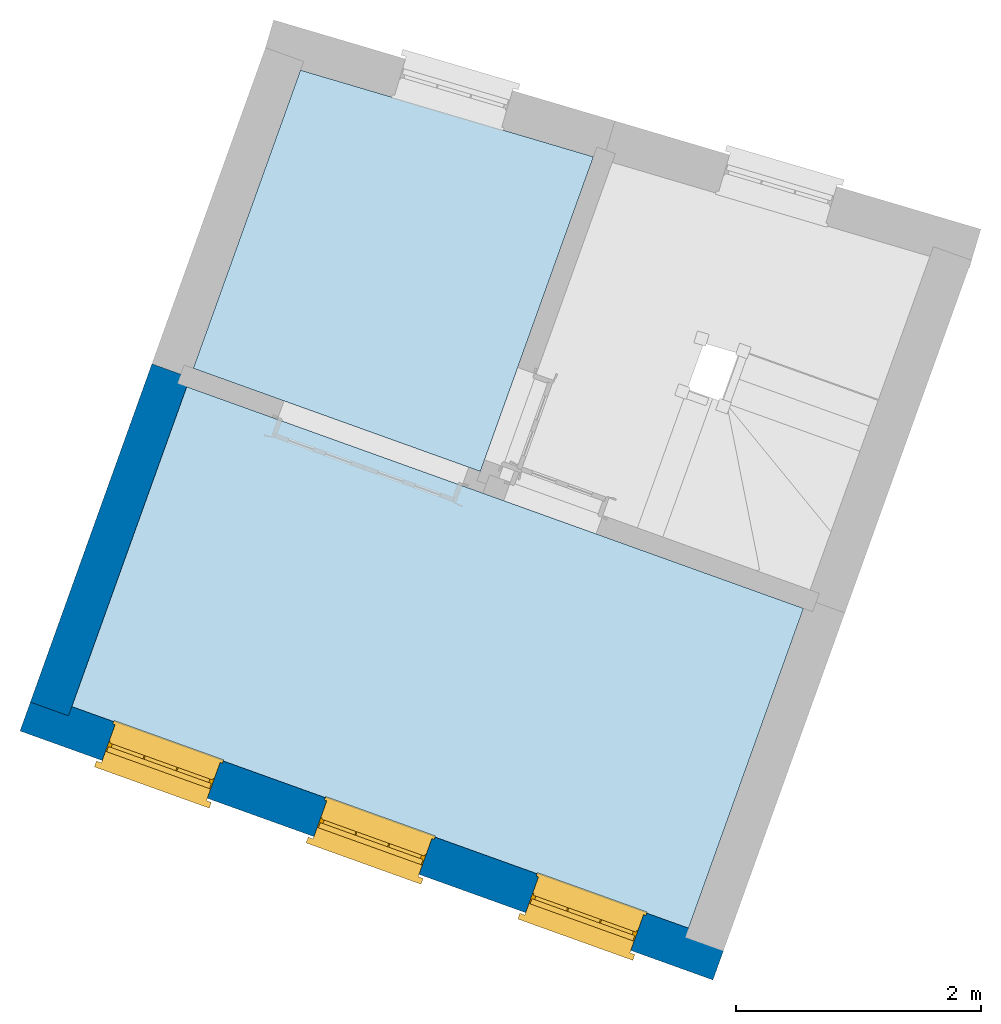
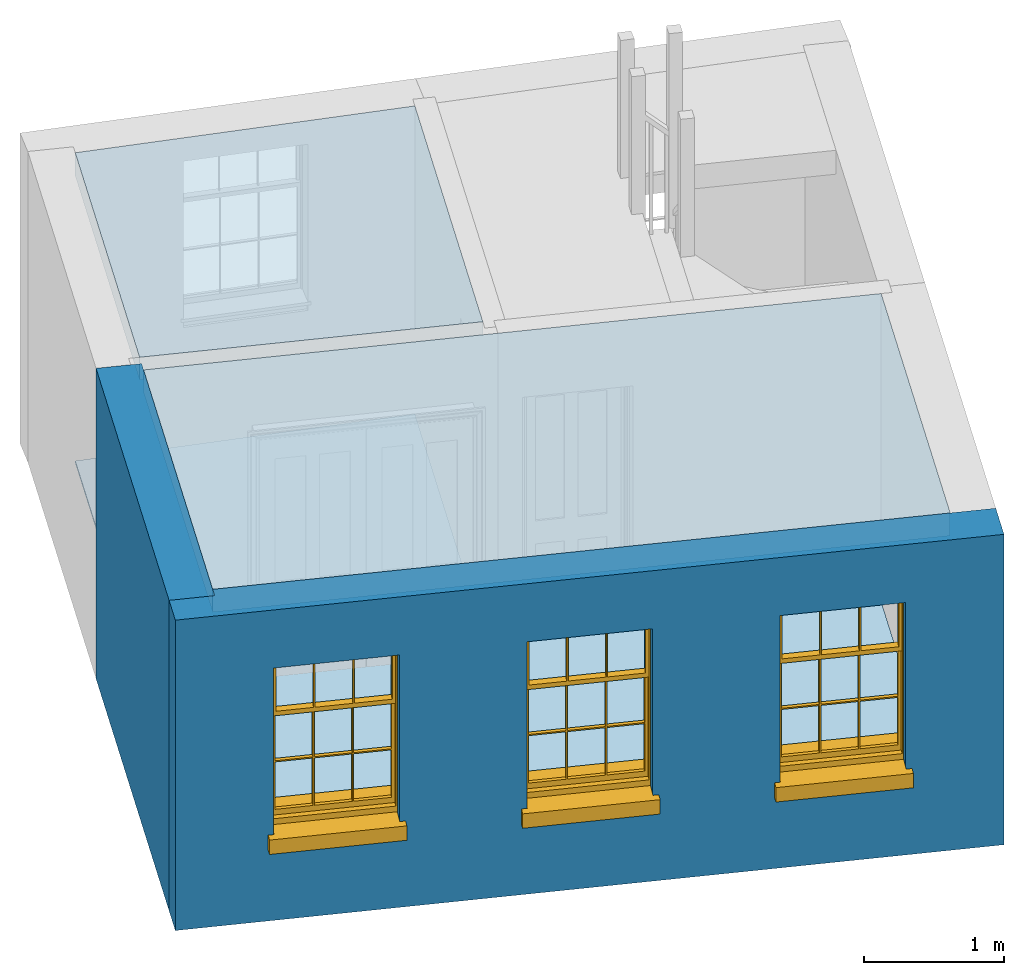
# One storey, part 1 of 4: 4 slabs, 3 windows, 2 walls, 3 openings.
"""IFC4 building model written with IfcOpenShell, lengths in metres."""

from ifc_helpers import new_model, si_unit, frame, origin, origin_with_axes, place, context, subcontext, project, spatial, polyline, outline, extrude, faceted_brep, source, transform, mapped, material, layer, layer_set, layer_usage, type_object, type_shapes, element, fill, save


model = new_model("IFC4")

# Units and contexts
model_context = context("Model", 3, world=origin_with_axes())
body_context = subcontext(model_context, "Body", "Model", "MODEL_VIEW")
ifc_project = project(units=[si_unit("PLANEANGLEUNIT", "RADIAN"), si_unit("MASSUNIT", "GRAM", prefix="KILO"), si_unit("FORCEUNIT", "NEWTON", prefix="KILO"), si_unit("LENGTHUNIT", "METRE"), si_unit("AREAUNIT", "SQUARE_METRE"), si_unit("VOLUMEUNIT", "CUBIC_METRE")], contexts=[model_context, model_context])

# Sites, building, storey
site_1_placement = place(None, origin_with_axes())
site_1 = spatial("IfcSite", under=ifc_project, at=site_1_placement, Name="Tamar")
site_2_placement = place(site_1_placement, origin_with_axes())
site_2 = spatial("IfcSite", under=site_1, at=site_2_placement, Name="Site plot-24", CompositionType="ELEMENT")
building_placement = place(None, origin_with_axes())
building = spatial("IfcBuilding", under=site_2, at=building_placement, Name="Building plot-24", CompositionType="ELEMENT")
storey_placement = place(None, frame((0.0, 0.0, 29.3), z_axis=(0.0, 0.0, 1.0), x_axis=(1.0, 0.0, 0.0)))
storey = spatial("IfcBuildingStorey", under=building, at=storey_placement, Name="plot-24 1", CompositionType="ELEMENT", Elevation=29.3)

# Slabs
slab_1_placement = place(storey_placement, frame((269.11697327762, 275.26769644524, 2.5)))
element("IfcSlab", 1, at=slab_1_placement, inside=storey, Name="My Slab", ObjectType="Slab", PredefinedType="FLOOR", context=body_context, shape_type="SweptSolid", body=[
    extrude(outline(polyline([(0.0, 0.0), (5.02540546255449, -1.80579620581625), (5.96180584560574, 0.800141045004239), (0.93640038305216, 2.60593725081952), (0.0, 0.0)])), origin_with_axes(), (0.0, 0.0, 1.0), 0.2),
])
slab_2_placement = place(storey_placement, frame((269.11697327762, 275.26769644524, 0.0)))
element("IfcSlab", 2, at=slab_2_placement, inside=storey, Name="My Slab", ObjectType="Slab", PredefinedType="FLOOR", context=body_context, shape_type="SweptSolid", body=[
    extrude(outline(polyline([(0.0, 0.0), (5.02540546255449, -1.80579620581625), (5.96180584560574, 0.800141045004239), (0.93640038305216, 2.60593725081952), (0.0, 0.0)])), origin_with_axes(), (0.0, 0.0, 1.0), 0.02),
])
slab_3_placement = place(storey_placement, frame((272.445938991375, 277.183921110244, 2.5)))
element("IfcSlab", 3, at=slab_3_placement, inside=storey, Name="My Slab", ObjectType="Slab", PredefinedType="FLOOR", context=body_context, shape_type="SweptSolid", body=[
    extrude(outline(polyline([(0.0, 0.0), (0.921155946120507, 2.56351304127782), (-1.46547668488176, 3.26973591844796), (-2.33845907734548, 0.840286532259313), (0.0, 0.0)])), origin_with_axes(), (0.0, 0.0, 1.0), 0.2),
])
slab_4_placement = place(storey_placement, frame((272.445938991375, 277.183921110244, 0.0)))
element("IfcSlab", 4, at=slab_4_placement, inside=storey, Name="My Slab", ObjectType="Slab", PredefinedType="FLOOR", context=body_context, shape_type="SweptSolid", body=[
    extrude(outline(polyline([(0.0, 0.0), (0.921155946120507, 2.56351304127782), (-1.46547668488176, 3.26973591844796), (-2.33845907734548, 0.840286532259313), (0.0, 0.0)])), origin_with_axes(), (0.0, 0.0, 1.0), 0.02),
])

# Wall, openings, windows
ifc_material_1 = material(Name="Masonry")
ifc_layer_1 = layer(ifc_material_1, 0.33, ventilated=False)
ifc_layer_set_1 = layer_set([ifc_layer_1], Name="exterior_0.08_0.25")
ifc_layer_usage_1 = layer_usage(ifc_layer_set_1, "AXIS2", "POSITIVE", -0.25)
wall_type_1 = type_object("IfcWallType", Name="exterior_0.08_0.25", PredefinedType="SOLIDWALL", material=ifc_layer_set_1)
wall_1_placement = place(storey_placement, frame((269.014633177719, 275.219462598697, 0.0), z_axis=(0.0, 0.0, 1.0), x_axis=(0.941087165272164, -0.338164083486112, 0.0)))
wall_1 = element("IfcWall", 5, at=wall_1_placement, inside=storey, type_object=wall_type_1, material=ifc_layer_usage_1, Name="exterior", context=body_context, shape_type="SweptSolid", body=[
    extrude(outline(polyline([(-0.250000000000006, 0.0799999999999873), (-0.250000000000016, -0.249999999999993), (5.75000000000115, -0.250000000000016), (5.75000000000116, 0.079999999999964), (-0.250000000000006, 0.0799999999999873)])), origin_with_axes(), (0.0, 0.0, 1.0), 2.7),
])
opening_1_placement = place(wall_1_placement, frame((0.461666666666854, 0.0, 0.75)))
opening_1 = element("IfcOpeningElement", 6, at=opening_1_placement, cuts=wall_1, Name="My Opening", ObjectType="Opening", context=body_context, shape_type="SweptSolid", body=[
    extrude(outline(polyline([(0.0, -0.270000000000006), (0.910000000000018, -0.27000000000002), (0.910000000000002, 1.1), (-1.5931700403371e-14, 1.10000000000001), (0.0, -0.270000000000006)])), origin_with_axes(), (0.0, 0.0, 1.0), 1.445),
])
opening_2_placement = place(wall_1_placement, frame((2.2950000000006, 0.0, 0.75)))
opening_2 = element("IfcOpeningElement", 7, at=opening_2_placement, cuts=wall_1, Name="My Opening", ObjectType="Opening", context=body_context, shape_type="SweptSolid", body=[
    extrude(outline(polyline([(0.0, -0.270000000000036), (0.909999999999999, -0.269999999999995), (0.909999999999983, 1.10000000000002), (-1.59872115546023e-14, 1.09999999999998), (0.0, -0.270000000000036)])), origin_with_axes(), (0.0, 0.0, 1.0), 1.445),
])
opening_3_placement = place(wall_1_placement, frame((4.12833333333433, 0.0, 0.75)))
opening_3 = element("IfcOpeningElement", 8, at=opening_3_placement, cuts=wall_1, Name="My Opening", ObjectType="Opening", context=body_context, shape_type="SweptSolid", body=[
    extrude(outline(polyline([(0.0, -0.270000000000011), (0.910000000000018, -0.270000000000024), (0.910000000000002, 1.1), (-1.59872115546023e-14, 1.10000000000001), (0.0, -0.270000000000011)])), origin_with_axes(), (0.0, 0.0, 1.0), 1.445),
])
window_type = type_object("IfcWindowType", Name="sash_shorter", PartitioningType="DOUBLE_PANEL_HORIZONTAL", PredefinedType="NOTDEFINED")
shared_shape = source(origin(), body_context, "Body", "Brep", [
    faceted_brep([(0.876875, 0.145, 0.999097), (0.876875, 0.145, 1.411875), (0.9, 0.145, 1.435), (0.033125, 0.145, 1.411875), (0.033125, 0.145, 0.999097), (0.01, 0.145, 1.435), (0.033125, 0.115, 1.411875), (0.01, 0.115, 1.435), (0.033125, 0.115, 0.999097), (0.876875, 0.115, 1.411875), (0.876875, 0.115, 0.999097), (0.9, 0.115, 1.435), (0.033125, 0.145, 0.960972), (0.01, 0.145, 0.960972), (0.033125, 0.145, 0.548195), (0.876875, 0.145, 0.960972), (0.876875, 0.145, 0.548195), (0.9, 0.145, 0.960972), (0.876875, 0.145, 0.538195), (0.876875, 0.145, 0.125417), (0.9, 0.145, 0.077167), (0.033125, 0.145, 0.125417), (0.033125, 0.145, 0.538195), (0.01, 0.145, 0.077167), (0.9, 0.115, 0.960972), (0.01, 0.115, 0.960972), (-0.0425, 0.0, 0.01), (-0.0425, -0.05, 0.001667), (0.0, 0.0, 0.01), (0.9525, 0.0, 0.01), (0.91, 0.0, 0.01), (0.9525, -0.05, 0.001667), (-0.02, 0.33, 0.077167), (0.0, 0.33, 0.077167), (-0.02, 0.36, 0.077167), (0.0, 0.19, 0.077167), (0.01, 0.19, 0.077167), (0.91, 0.19, 0.077167), (0.91, 0.33, 0.077167), (0.9, 0.19, 0.077167), (0.93, 0.33, 0.077167), (0.93, 0.36, 0.077167), (0.01, 0.145, 0.999097), (0.01, 0.175, 0.999097), (0.9, 0.145, 0.999097), (0.9, 0.175, 0.999097), (0.876875, 0.175, 0.125417), (0.876875, 0.175, 0.538195), (0.9, 0.175, 0.077167), (0.876875, 0.175, 0.548195), (0.876875, 0.175, 0.960972), (0.033125, 0.175, 0.125417), (0.01, 0.175, 0.077167), (0.033125, 0.175, 0.538195), (0.033125, 0.175, 0.960972), (0.033125, 0.175, 0.548195), (-0.02, 0.33, 0.052167), (-0.02, 0.36, 0.052167), (0.93, 0.36, 0.052167), (0.93, 0.33, 0.052167), (0.91, 0.33, 0.052167), (0.0, 0.33, 0.052167), (0.91, 0.1, 0.026667), (0.0, 0.1, 0.026667), (-0.0425, -0.05, -0.123333), (0.9525, -0.05, -0.123333), (-0.0425, 0.0, -0.123333), (0.9525, 0.0, -0.123333), (0.01, 0.19, 1.435), (0.9, 0.19, 1.435), (0.0, 0.19, 1.445), (0.91, 0.19, 1.445), (0.01, 0.1, 0.077167), (0.9, 0.1, 0.077167), (0.592292, 0.145, 0.125417), (0.592292, 0.175, 0.125417), (0.317708, 0.175, 0.125417), (0.317708, 0.145, 0.125417), (0.592292, 0.145, 0.548195), (0.317708, 0.145, 0.548195), (0.317708, 0.145, 0.538195), (0.592292, 0.145, 0.538195), (0.592292, 0.175, 0.548195), (0.317708, 0.175, 0.548195), (0.602292, 0.175, 0.548195), (0.602292, 0.145, 0.548195), (0.317708, 0.175, 0.538195), (0.307708, 0.175, 0.125417), (0.307708, 0.175, 0.538195), (0.602292, 0.175, 0.538195), (0.602292, 0.175, 0.125417), (0.592292, 0.175, 0.538195), (0.307708, 0.175, 0.548195), (0.317708, 0.175, 0.960972), (0.307708, 0.175, 0.960972), (0.602292, 0.175, 0.960972), (0.592292, 0.175, 0.960972), (0.307708, 0.145, 0.538195), (0.307708, 0.145, 0.125417), (0.307708, 0.145, 0.548195), (0.307708, 0.145, 0.960972), (0.592292, 0.145, 0.960972), (0.317708, 0.145, 0.960972), (0.602292, 0.145, 0.960972), (0.602292, 0.145, 0.538195), (0.602292, 0.145, 0.125417), (0.317708, 0.115, 1.411875), (0.307708, 0.115, 1.411875), (0.307708, 0.115, 0.999097), (0.317708, 0.115, 0.999097), (0.602292, 0.115, 1.411875), (0.592292, 0.115, 1.411875), (0.592292, 0.115, 0.999097), (0.602292, 0.115, 0.999097), (0.317708, 0.145, 0.999097), (0.307708, 0.145, 0.999097), (0.307708, 0.145, 1.411875), (0.317708, 0.145, 1.411875), (0.602292, 0.145, 0.999097), (0.592292, 0.145, 0.999097), (0.592292, 0.145, 1.411875), (0.602292, 0.145, 1.411875), (0.91, 0.1, 1.445), (0.9, 0.1, 1.435), (0.01, 0.1, 1.435), (0.0, 0.1, 1.445), (0.91, 0.0, 0.0), (0.0, 0.0, 0.0), (0.91, 0.33, 0.0), (0.0, 0.33, 0.0)], [[[0, 1, 2]], [[3, 4, 5]], [[6, 7, 8]], [[9, 10, 11]], [[12, 13, 14]], [[15, 16, 17]], [[18, 19, 20]], [[21, 22, 23]], [[24, 15, 17]], [[13, 12, 25]], [[26, 27, 28]], [[29, 30, 31]], [[32, 33, 34]], [[35, 36, 33]], [[37, 38, 39]], [[40, 41, 38]], [[42, 4, 43]], [[44, 45, 0]], [[46, 47, 48]], [[49, 50, 45]], [[51, 52, 53]], [[54, 55, 43]], [[38, 33, 36, 39]], [[41, 34, 33, 38]], [[56, 32, 34, 57]], [[57, 34, 41, 58]], [[58, 41, 40, 59]], [[57, 58, 60, 61]], [[52, 48, 39, 36]], [[62, 63, 28, 30]], [[27, 31, 30, 28]], [[27, 64, 65, 31]], [[66, 67, 65, 64]], [[2, 5, 68, 69]], [[68, 70, 71, 69]], [[20, 23, 72, 73]], [[73, 72, 63, 62]], [[74, 75, 76, 77]], [[78, 79, 80, 81]], [[78, 82, 83, 79]], [[16, 49, 84, 85]], [[86, 76, 87, 88]], [[89, 90, 75, 91]], [[92, 88, 53, 55]], [[82, 91, 86, 83]], [[93, 83, 92, 94]], [[95, 84, 82, 96]], [[89, 84, 49, 47]], [[97, 88, 87, 98]], [[22, 53, 88, 97]], [[81, 91, 75, 74]], [[80, 86, 91, 81]], [[77, 76, 86, 80]], [[99, 92, 55, 14]], [[100, 94, 92, 99]], [[101, 96, 82, 78]], [[79, 83, 93, 102]], [[85, 84, 95, 103]], [[104, 89, 47, 18]], [[105, 90, 89, 104]], [[104, 18, 16, 85]], [[80, 97, 98, 77]], [[104, 81, 74, 105]], [[103, 101, 78, 85]], [[99, 14, 22, 97]], [[102, 100, 99, 79]], [[106, 107, 108, 109]], [[110, 111, 112, 113]], [[114, 115, 116, 117]], [[118, 119, 120, 121]], [[107, 116, 115, 108]], [[111, 120, 119, 112]], [[109, 114, 117, 106]], [[113, 118, 121, 110]], [[85, 78, 81, 104]], [[84, 89, 91, 82]], [[83, 86, 88, 92]], [[79, 99, 97, 80]], [[109, 112, 119, 114]], [[102, 93, 96, 101]], [[106, 117, 120, 111]], [[98, 87, 51, 21]], [[6, 3, 116, 107]], [[110, 121, 1, 9]], [[19, 46, 90, 105]], [[26, 66, 64, 27]], [[29, 31, 65, 67]], [[25, 24, 112, 109]], [[11, 7, 106, 111]], [[75, 48, 52, 76]], [[43, 45, 96, 93]], [[45, 43, 114, 119]], [[5, 2, 120, 117]], [[24, 25, 102, 101]], [[42, 5, 4]], [[2, 44, 0]], [[49, 45, 48, 47]], [[52, 43, 55, 53]], [[14, 13, 23, 22]], [[20, 17, 16, 18]], [[24, 11, 10]], [[25, 8, 7]], [[8, 4, 3, 6]], [[9, 1, 0, 10]], [[15, 50, 49, 16]], [[18, 47, 46, 19]], [[21, 51, 53, 22]], [[14, 55, 54, 12]], [[44, 2, 69, 45]], [[68, 5, 42, 43]], [[36, 35, 70, 68]], [[39, 69, 71, 37]], [[62, 122, 123, 73]], [[63, 72, 124, 125]], [[8, 108, 115, 4]], [[113, 10, 0, 118]], [[94, 100, 12, 54]], [[17, 20, 73, 24]], [[72, 23, 13, 25]], [[52, 36, 68, 43]], [[69, 39, 48, 45]], [[11, 24, 73, 123]], [[7, 124, 72, 25]], [[23, 77, 98]], [[98, 21, 23]], [[105, 74, 20]], [[20, 19, 105]], [[20, 74, 77, 23]], [[113, 112, 24]], [[24, 10, 113]], [[25, 109, 108]], [[108, 8, 25]], [[110, 9, 11]], [[11, 111, 110]], [[7, 6, 107]], [[107, 106, 7]], [[5, 117, 116]], [[116, 3, 5]], [[121, 120, 2]], [[2, 1, 121]], [[11, 123, 124, 7]], [[122, 125, 124, 123]], [[43, 93, 94]], [[94, 54, 43]], [[96, 45, 95]], [[50, 95, 45]], [[15, 103, 95, 50]], [[48, 75, 90]], [[90, 46, 48]], [[87, 76, 52]], [[52, 51, 87]], [[103, 15, 24]], [[24, 101, 103]], [[100, 102, 25]], [[25, 12, 100]], [[115, 114, 43]], [[43, 4, 115]], [[118, 0, 45]], [[45, 119, 118]], [[71, 70, 125, 122]], [[70, 35, 63, 125]], [[122, 62, 37, 71]], [[126, 67, 66, 127]], [[60, 58, 59]], [[38, 60, 59, 40]], [[61, 56, 57]], [[32, 56, 61, 33]], [[61, 60, 128, 129]], [[62, 60, 38, 37]], [[126, 128, 60, 62]], [[33, 61, 63, 35]], [[61, 129, 127, 63]], [[128, 126, 127, 129]], [[28, 127, 66, 26]], [[63, 127, 28]], [[29, 67, 126, 30]], [[30, 126, 62]]]),
])
type_shapes(window_type, [shared_shape])
window_1_placement = place(storey_placement, frame((269.357797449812, 274.809249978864, 0.75), z_axis=(0.0, 0.0, 1.0), x_axis=(0.856389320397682, -0.307729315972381, 0.0)))
window_1 = element("IfcWindow", 9, at=window_1_placement, inside=storey, type_object=window_type, Name="living outside window", OverallHeight=1.445, OverallWidth=0.91, context=body_context, shape_type="MappedRepresentation", body=[
    mapped(shared_shape, transform((0.0, 0.0, 0.0), scale=1.0)),
])
fill(opening_1, window_1)
window_2_placement = place(storey_placement, frame((271.083123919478, 274.189282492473, 0.75), z_axis=(0.0, 0.0, 1.0), x_axis=(0.856389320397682, -0.307729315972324, 0.0)))
window_2 = element("IfcWindow", 10, at=window_2_placement, inside=storey, type_object=window_type, Name="living outside window", OverallHeight=1.445, OverallWidth=0.91, context=body_context, shape_type="MappedRepresentation", body=[
    mapped(shared_shape, transform((0.0, 0.0, 0.0), scale=1.0)),
])
fill(opening_2, window_2)
window_3_placement = place(storey_placement, frame((272.808450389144, 273.569315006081, 0.75), z_axis=(0.0, 0.0, 1.0), x_axis=(0.856389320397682, -0.307729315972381, 0.0)))
window_3 = element("IfcWindow", 11, at=window_3_placement, inside=storey, type_object=window_type, Name="living outside window", OverallHeight=1.445, OverallWidth=0.91, context=body_context, shape_type="MappedRepresentation", body=[
    mapped(shared_shape, transform((0.0, 0.0, 0.0), scale=1.0)),
])
fill(opening_3, window_3)

# Wall
ifc_material_2 = material(Name="Masonry")
ifc_layer_2 = layer(ifc_material_2, 0.33, ventilated=False)
ifc_layer_set_2 = layer_set([ifc_layer_2], Name="party_0.08_0.25")
ifc_layer_usage_2 = layer_usage(ifc_layer_set_2, "AXIS2", "POSITIVE", -0.25)
wall_type_2 = type_object("IfcWallType", Name="party_0.08_0.25", PredefinedType="SOLIDWALL", material=ifc_layer_set_2)
wall_2_placement = place(storey_placement, frame((270.005139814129, 277.97597379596, 0.0), z_axis=(0.0, 0.0, 1.0), x_axis=(-0.338164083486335, -0.941087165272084, 0.0)))
element("IfcWall", 12, at=wall_2_placement, inside=storey, type_object=wall_type_2, material=ifc_layer_usage_2, Name="party", context=body_context, shape_type="SweptSolid", body=[
    extrude(outline(polyline([(-2.03362180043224e-14, 0.0799999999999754), (1.00823558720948e-13, -0.249999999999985), (2.92907107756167, -0.250000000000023), (2.92907107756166, 0.0799999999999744), (-2.03362180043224e-14, 0.0799999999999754)])), origin_with_axes(), (0.0, 0.0, 1.0), 2.7),
])

save(model, "model.ifc")
